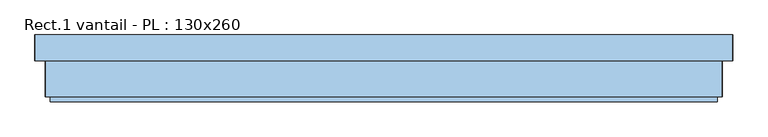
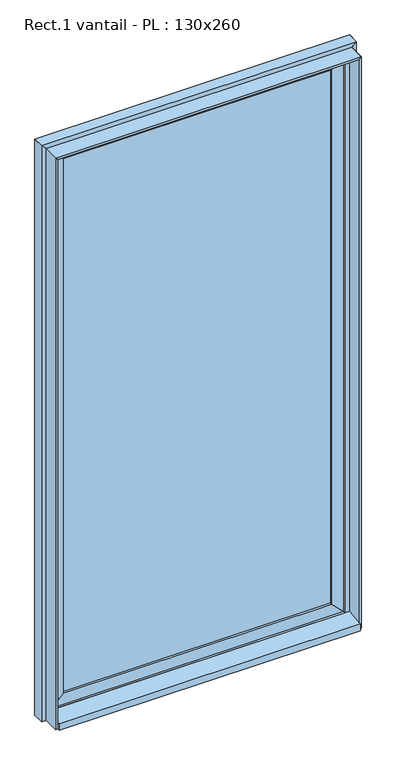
"""IFC4 building model written with IfcOpenShell, lengths in millimetres: window geometry, Rect.1 vantail - PL : 130x260."""

import ifcopenshell
import ifcopenshell.guid

model = None  # the IFC model being written
_history = None  # IfcOwnerHistory: only IFC2X3 demands one
_inside = {}  # id of a spatial element -> (the spatial element, [elements in it])
_under = {}  # id of a project, library or spatial element -> (it, [spatial elements below it])
_declared = {}  # id of a project -> (the project, [libraries it declares])
_typed = {}  # id of a type object -> (the type object, [elements of that type])
_made_of = {}  # id of a material, layer set ... -> (it, [elements and type objects made of it])


def new_model(schema):
    """Start an empty IFC model of exactly this schema.

    Asked for "IFC4X3", IfcOpenShell would pick the latest addendum, in which some entities
    have other attributes; the version numbers below select the first issue.
    IFC2X3 requires an IfcOwnerHistory on every rooted entity: one is made here for all.
    """
    global model, _history
    if schema == "IFC4X3":
        model = ifcopenshell.file(schema_version=(4, 3, 0, 0))
    else:
        model = ifcopenshell.file(schema=schema)
    _inside.clear()
    _under.clear()
    _declared.clear()
    _typed.clear()
    _made_of.clear()
    _history = None
    if model.schema == "IFC2X3":
        org = make("IfcOrganization", Name="unknown")
        user = make(
            "IfcPersonAndOrganization",
            ThePerson=make("IfcPerson", FamilyName="unknown"),
            TheOrganization=org,
        )
        app = make(
            "IfcApplication",
            ApplicationDeveloper=org,
            Version="unknown",
            ApplicationFullName="unknown",
            ApplicationIdentifier="unknown",
        )
        _history = make(
            "IfcOwnerHistory",
            OwningUser=user,
            OwningApplication=app,
            ChangeAction="ADDED",
            CreationDate=0,
        )
    return model


def make(cls, **values):
    """One entity of the class cls with the attributes given. An attribute that is None is left unset."""
    return model.create_entity(
        cls, **{name: value for name, value in values.items() if value is not None}
    )


def rooted(cls, **values):
    """An entity with a GlobalId (a new one), such as an element, a storey or a relation."""
    return make(cls, GlobalId=ifcopenshell.guid.new(), OwnerHistory=_history, **values)


def si_unit(unit_type, name, prefix=None):
    """IfcSIUnit, for example si_unit("LENGTHUNIT", "METRE", prefix="MILLI")."""
    return make("IfcSIUnit", UnitType=unit_type, Prefix=prefix, Name=name)


def assignment(units):
    """IfcUnitAssignment: the units of a project."""
    return None if units is None else make("IfcUnitAssignment", Units=units)


def point(xyz):
    """IfcCartesianPoint."""
    return None if xyz is None else make("IfcCartesianPoint", Coordinates=xyz)


def direction(xyz):
    """IfcDirection."""
    return None if xyz is None else make("IfcDirection", DirectionRatios=xyz)


def frame(location, z_axis=None, x_axis=None):
    """IfcAxis2Placement3D, a coordinate frame: its origin and axes. An axis left out is left unset."""
    return make(
        "IfcAxis2Placement3D",
        Location=point(location),
        Axis=direction(z_axis),
        RefDirection=direction(x_axis),
    )


def origin():
    """The frame at (0, 0, 0) with its axes left unset."""
    return frame((0.0, 0.0, 0.0))


def origin_with_axes():
    """The frame at (0, 0, 0) with the z axis (0, 0, 1) and the x axis (1, 0, 0) written out."""
    return frame((0.0, 0.0, 0.0), z_axis=(0.0, 0.0, 1.0), x_axis=(1.0, 0.0, 0.0))


def place(relative_to, where):
    """IfcLocalPlacement: puts the frame where relative to a parent placement (None: the world)."""
    return make(
        "IfcLocalPlacement", PlacementRelTo=relative_to, RelativePlacement=where
    )


def context(
    kind, dimensions, precision=None, world=None, true_north=None, identifier=None
):
    """IfcGeometricRepresentationContext, for example the 3D "Model" context."""
    return make(
        "IfcGeometricRepresentationContext",
        ContextIdentifier=identifier,
        ContextType=kind,
        CoordinateSpaceDimension=dimensions,
        Precision=precision,
        WorldCoordinateSystem=world,
        TrueNorth=true_north,
    )


def project(units=None, contexts=None):
    """IfcProject with its units and contexts."""
    return rooted(
        "IfcProject",
        Name="project",
        RepresentationContexts=contexts,
        UnitsInContext=assignment(units),
    )


def spatial(cls, under=None, at=None, **own):
    """A site, building, storey or space (cls), placed at a placement, below another one or the project."""
    s = rooted(cls, ObjectPlacement=at, **own)
    if under is not None:
        _under.setdefault(under.id(), (under, []))[1].append(s)
    return s


def polyline(points):
    """IfcPolyline through the points."""
    return make("IfcPolyline", Points=[point(p) for p in points])


def outline(outer, holes=None, kind="AREA"):
    """IfcArbitraryClosedProfileDef: a profile drawn as a closed curve; with holes, ...WithVoids."""
    if holes is None:
        return make("IfcArbitraryClosedProfileDef", ProfileType=kind, OuterCurve=outer)
    return make(
        "IfcArbitraryProfileDefWithVoids",
        ProfileType=kind,
        OuterCurve=outer,
        InnerCurves=holes,
    )


def extrude(swept, where, along, depth):
    """IfcExtrudedAreaSolid: the profile swept, set in the frame where, extruded along a direction by depth."""
    return make(
        "IfcExtrudedAreaSolid",
        SweptArea=swept,
        Position=where,
        ExtrudedDirection=direction(along),
        Depth=depth,
    )


def shape(context_of_items, identifier, shape_type, items):
    """IfcShapeRepresentation: the items that make up one representation, for example the "Body"."""
    return make(
        "IfcShapeRepresentation",
        ContextOfItems=context_of_items,
        RepresentationIdentifier=identifier,
        RepresentationType=shape_type,
        Items=items,
    )


def source(mapping_origin, context_of_items, identifier, shape_type, items):
    """IfcRepresentationMap: a shape defined once, which mapped items show again and again."""
    return make(
        "IfcRepresentationMap",
        MappingOrigin=mapping_origin,
        MappedRepresentation=shape(context_of_items, identifier, shape_type, items),
    )


def transform(
    local_origin,
    x_axis=None,
    y_axis=None,
    z_axis=None,
    scale=None,
    scale2=None,
    scale3=None,
    uniform=True,
):
    """IfcCartesianTransformationOperator3D, or its non-uniform kind. x_axis, y_axis, z_axis: its Axis1, 2, 3."""
    if uniform:
        return make(
            "IfcCartesianTransformationOperator3D",
            Axis1=direction(x_axis),
            Axis2=direction(y_axis),
            LocalOrigin=point(local_origin),
            Scale=scale,
            Axis3=direction(z_axis),
        )
    return make(
        "IfcCartesianTransformationOperator3DnonUniform",
        Axis1=direction(x_axis),
        Axis2=direction(y_axis),
        LocalOrigin=point(local_origin),
        Scale=scale,
        Axis3=direction(z_axis),
        Scale2=scale2,
        Scale3=scale3,
    )


def mapped(mapping_source, mapping_target):
    """IfcMappedItem: shows the shape of a source again, moved by a transform."""
    return make(
        "IfcMappedItem", MappingSource=mapping_source, MappingTarget=mapping_target
    )


def made_of(thing, what):
    """Note that an element or type object is made of a material, layer set ...; save() writes the relation."""
    if what is not None:
        _made_of.setdefault(what.id(), (what, []))[1].append(thing)
    return thing


def element(
    cls,
    number,
    at=None,
    inside=None,
    cuts=None,
    type_object=None,
    material=None,
    context=None,
    identifier="Body",
    shape_type=None,
    held_by="IfcProductDefinitionShape",
    body=None,
    shapes=None,
    **own,
):
    """One element of the class cls, such as IfcWall. Its Tag is "e" and its number.

    at: its placement. inside: the storey or other place that contains it. cuts: it is an
    opening in that element (IfcRelVoidsElement). A single representation is given by context,
    identifier, shape_type and body (its items); several are given by shapes. held_by: the class
    of the entity that holds the representations. save() writes the other relations.
    """
    e = rooted(cls, Tag="e%d" % number, ObjectPlacement=at, **own)
    if body is not None:
        shapes = [shape(context, identifier, shape_type, body)]
    if shapes is not None:
        e.Representation = make(held_by, Representations=shapes)
    if inside is not None:
        _inside.setdefault(inside.id(), (inside, []))[1].append(e)
    if cuts is not None:
        rooted(
            "IfcRelVoidsElement", RelatingBuildingElement=cuts, RelatedOpeningElement=e
        )
    if type_object is not None:
        _typed.setdefault(type_object.id(), (type_object, []))[1].append(e)
    return made_of(e, material)


def aggregate(whole, parts):
    """IfcRelAggregates: a whole, such as a stair, and the parts it consists of."""
    return rooted("IfcRelAggregates", RelatingObject=whole, RelatedObjects=parts)


def save(model, path):
    """Write the relations noted so far, then the file.

    IfcRelAggregates (storeys below a building ...), IfcRelContainedInSpatialStructure (elements
    in a storey), IfcRelDefinesByType, IfcRelAssociatesMaterial and IfcRelDeclares: one each for
    every whole, place, type object, material and project.
    """
    for whole, parts in _under.values():
        aggregate(whole, parts)
    for where, things in _inside.values():
        rooted(
            "IfcRelContainedInSpatialStructure",
            RelatedElements=things,
            RelatingStructure=where,
        )
    for kind, things in _typed.values():
        rooted("IfcRelDefinesByType", RelatedObjects=things, RelatingType=kind)
    for what, things in _made_of.values():
        rooted("IfcRelAssociatesMaterial", RelatedObjects=things, RelatingMaterial=what)
    for by, libraries in _declared.values():
        rooted("IfcRelDeclares", RelatingContext=by, RelatedDefinitions=libraries)
    model.write(path)


def rect_1_vantail_pl_130x260_420b5ccb(model_context):
    return source(origin(), model_context, "Body", "SweptSolid", [
        extrude(outline(polyline([(580.0, -10.0), (580.0, -30.0), (-580.0, -30.0), (-580.0, -10.0), (580.0, -10.0)])), frame((0.0, 0.0, 90.0), z_axis=(0.0, 0.0, 1.0), x_axis=(1.0, 0.0, 0.0)), (0.0, 0.0, 1.0), 2440.0),
        extrude(outline(polyline([(40.0, -630.0), (90.0, -580.0), (2530.0, -580.0), (2580.0, -630.0), (40.0, -630.0)])), frame((0.0, -40.0, 0.0), z_axis=(0.0, 1.0, 0.0), x_axis=(0.0, 0.0, 1.0)), (0.0, 0.0, 1.0), 40.0),
        extrude(outline(polyline([(90.0, 580.0), (40.0, 630.0), (2580.0, 630.0), (2530.0, 580.0), (90.0, 580.0)])), frame((0.0, -40.0, 0.0), z_axis=(0.0, 1.0, 0.0), x_axis=(0.0, 0.0, 1.0)), (0.0, 0.0, 1.0), 40.0),
        extrude(outline(polyline([(2580.0, 630.0), (2580.0, -630.0), (2530.0, -580.0), (2530.0, 580.0), (2580.0, 630.0)])), frame((0.0, -40.0, 0.0), z_axis=(0.0, 1.0, 0.0), x_axis=(0.0, 0.0, 1.0)), (0.0, 0.0, 1.0), 40.0),
        extrude(outline(polyline([(40.0, 630.0), (90.0, 580.0), (90.0, -580.0), (40.0, -630.0), (40.0, 630.0)])), frame((0.0, -40.0, 0.0), z_axis=(0.0, 1.0, 0.0), x_axis=(0.0, 0.0, 1.0)), (0.0, 0.0, 1.0), 40.0),
        extrude(outline(polyline([(630.0, -50.0), (-630.0, -50.0), (-630.0, 0.0), (630.0, 0.0), (630.0, -50.0)])), origin_with_axes(), (0.0, 0.0, 1.0), 40.0),
        extrude(outline(polyline([(-130.0, 30.0), (-50.0, 40.0), (-50.0, 0.0), (-130.0, 0.0), (-130.0, 30.0)])), frame((-650.0, 0.0, 0.0), z_axis=(1.0, 0.0, 0.0), x_axis=(0.0, 1.0, 0.0)), (0.0, 0.0, 1.0), 1300.0),
        extrude(outline(polyline([(2610.0, 660.0), (2600.0, 650.0), (0.0, 650.0), (0.0, 660.0), (2610.0, 660.0)])), frame((0.0, -120.0, 0.0), z_axis=(0.0, 1.0, 0.0), x_axis=(0.0, 0.0, 1.0)), (0.0, 0.0, 1.0), 70.0),
        extrude(outline(polyline([(2610.0, -660.0), (0.0, -660.0), (0.0, -650.0), (2600.0, -650.0), (2610.0, -660.0)])), frame((0.0, -120.0, 0.0), z_axis=(0.0, 1.0, 0.0), x_axis=(0.0, 0.0, 1.0)), (0.0, 0.0, 1.0), 70.0),
        extrude(outline(polyline([(0.0, -680.0), (0.0, -630.0), (2580.0, -630.0), (2630.0, -680.0), (0.0, -680.0)])), frame((0.0, -50.0, 0.0), z_axis=(0.0, 1.0, 0.0), x_axis=(0.0, 0.0, 1.0)), (0.0, 0.0, 1.0), 50.0),
        extrude(outline(polyline([(0.0, 680.0), (2630.0, 680.0), (2580.0, 630.0), (0.0, 630.0), (0.0, 680.0)])), frame((0.0, -50.0, 0.0), z_axis=(0.0, 1.0, 0.0), x_axis=(0.0, 0.0, 1.0)), (0.0, 0.0, 1.0), 50.0),
        extrude(outline(polyline([(2610.0, -660.0), (2600.0, -650.0), (2600.0, 650.0), (2610.0, 660.0), (2610.0, -660.0)])), frame((0.0, -120.0, 0.0), z_axis=(0.0, 1.0, 0.0), x_axis=(0.0, 0.0, 1.0)), (0.0, 0.0, 1.0), 70.0),
        extrude(outline(polyline([(2630.0, 680.0), (2630.0, -680.0), (2580.0, -630.0), (2580.0, 630.0), (2630.0, 680.0)])), frame((0.0, -50.0, 0.0), z_axis=(0.0, 1.0, 0.0), x_axis=(0.0, 0.0, 1.0)), (0.0, 0.0, 1.0), 50.0),
    ])


if __name__ == "__main__":
    model = new_model("IFC4")
    model_context = context("Model", 3, world=origin())
    ifc_project = project(units=[si_unit("LENGTHUNIT", "METRE", prefix="MILLI")], contexts=[model_context])
    site = spatial("IfcSite", under=ifc_project)
    building = spatial("IfcBuilding", under=site)
    placement = place(None, origin())
    rect_1_vantail_pl_130x260_shape = rect_1_vantail_pl_130x260_420b5ccb(model_context)
    element("IfcWindow", 1, ObjectType="Rect.1 vantail - PL : 130x260", at=placement, inside=building, context=model_context, shape_type="MappedRepresentation", body=[
        mapped(rect_1_vantail_pl_130x260_shape, transform((0.0, 0.0, 0.0), x_axis=(1.0, 0.0, 0.0), y_axis=(0.0, 1.0, 0.0), z_axis=(0.0, 0.0, 1.0))),
    ])
    save(model, "model.ifc")
